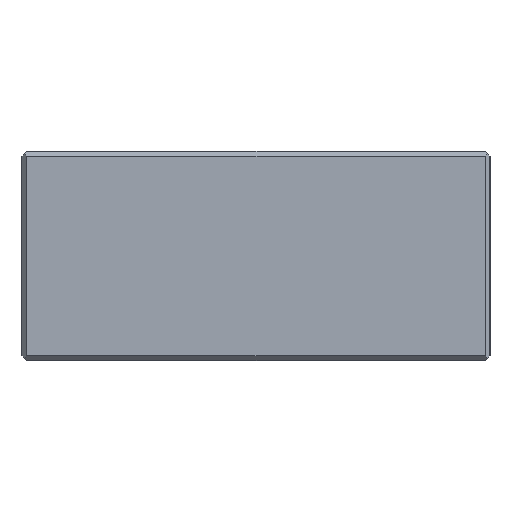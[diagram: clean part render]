
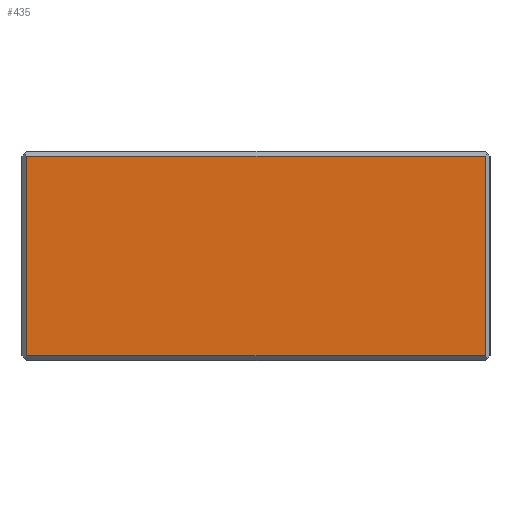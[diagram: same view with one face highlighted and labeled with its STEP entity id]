
A CAD part, left-side view. The second image highlights one B-rep face of the part: STEP entity #435.
In plain terms, the highlighted planar face has unit normal (-1, 0, 0).
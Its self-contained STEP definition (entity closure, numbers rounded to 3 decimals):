
#108=ORIENTED_EDGE('',*,*,#152,.T.);
#109=ORIENTED_EDGE('',*,*,#183,.F.);
#110=ORIENTED_EDGE('',*,*,#195,.F.);
#111=ORIENTED_EDGE('',*,*,#164,.T.);
#152=EDGE_CURVE('',#204,#207,#248,.T.);
#164=EDGE_CURVE('',#217,#204,#260,.T.);
#183=EDGE_CURVE('',#231,#207,#275,.T.);
#195=EDGE_CURVE('',#217,#231,#283,.T.);
#204=VERTEX_POINT('',#609);
#207=VERTEX_POINT('',#615);
#217=VERTEX_POINT('',#641);
#231=VERTEX_POINT('',#676);
#248=LINE('',#616,#296);
#260=LINE('',#640,#308);
#275=LINE('',#677,#323);
#283=LINE('',#700,#331);
#296=VECTOR('',#501,1000.);
#308=VECTOR('',#519,1000.);
#323=VECTOR('',#548,1000.);
#331=VECTOR('',#570,1000.);
#357=EDGE_LOOP('',(#108,#109,#110,#111));
#391=FACE_BOUND('',#357,.T.);
#417=PLANE('',#478);
#435=ADVANCED_FACE('',(#391),#417,.F.);
#478=AXIS2_PLACEMENT_3D('',#707,#579,#580);
#501=DIRECTION('',(0.,-1.,0.));
#519=DIRECTION('',(0.,0.,-1.));
#548=DIRECTION('',(0.,0.,-1.));
#570=DIRECTION('',(0.,-1.,0.));
#579=DIRECTION('',(1.,0.,0.));
#580=DIRECTION('',(0.,0.,-1.));
#609=CARTESIAN_POINT('',(-223.,95.,-20.5));
#615=CARTESIAN_POINT('',(-223.,1.,-20.5));
#616=CARTESIAN_POINT('',(-223.,96.,-20.5));
#640=CARTESIAN_POINT('',(-223.,95.,21.5));
#641=CARTESIAN_POINT('',(-223.,95.,20.5));
#676=CARTESIAN_POINT('',(-223.,1.,20.5));
#677=CARTESIAN_POINT('',(-223.,1.,21.5));
#700=CARTESIAN_POINT('',(-223.,96.,20.5));
#707=CARTESIAN_POINT('',(-223.,95.,21.5));
